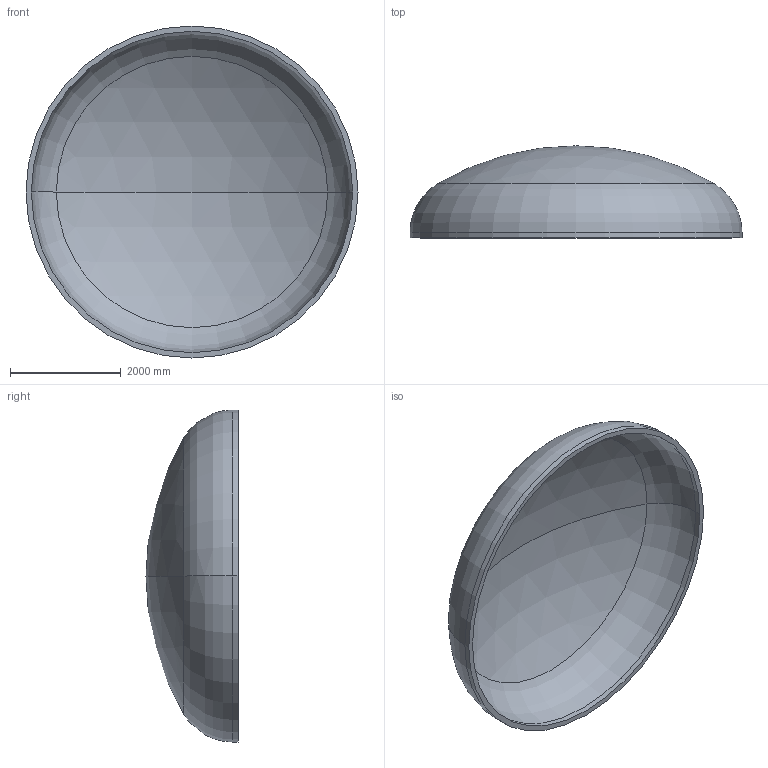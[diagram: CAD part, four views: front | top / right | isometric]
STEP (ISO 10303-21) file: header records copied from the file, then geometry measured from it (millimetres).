
FILE_DESCRIPTION (( 'STEP AP203' ), '1' );
FILE_NAME ('DIN 28013 Korbbogenform_-_Boden DIN 28013 - 6000 x 100 - I - s=96.step', '2016-07-04T10:38:41', ( '' ), ( '' ), 'SwSTEP 2.0', 'SolidWorks 2013', '' );
FILE_SCHEMA (( 'CONFIG_CONTROL_DESIGN' ));
Length unit declared in the file: millimetre
Products named in the file (1): DIN 28013 Korbbogenform_-_Boden DIN 28013 - 6000 x 100 - I - s=96
Bounding box: 6000 x 1664.46 x 6000 mm (x, y, z)
Volume: 3859606680.5 mm3; surface area: 82208348.9 mm2
Topology: 1 solids, 1 shells, 13 faces, 24 edges, 14 vertices
Faces by surface type: torus 4, cylinder 4, sphere 4, plane 1
Entity records: 407 total; most frequent: DIRECTION 72, CARTESIAN_POINT 52, ORIENTED_EDGE 48, AXIS2_PLACEMENT_3D 34, EDGE_CURVE 24, CIRCLE 20, VERTEX_POINT 14, EDGE_LOOP 14
